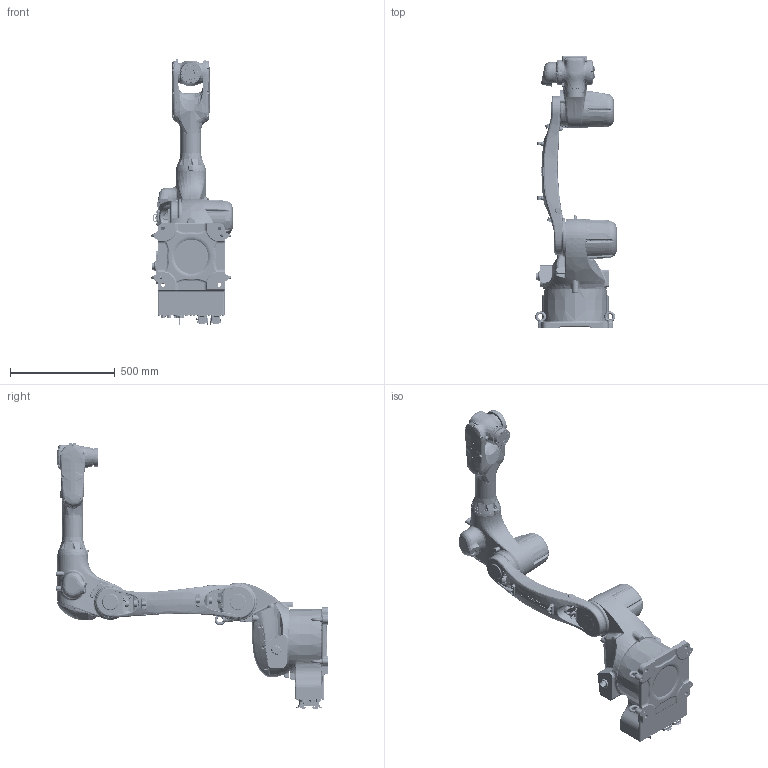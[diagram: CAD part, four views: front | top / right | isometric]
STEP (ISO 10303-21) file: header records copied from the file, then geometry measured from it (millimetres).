
FILE_DESCRIPTION (( 'STEP AP214' ), '1' );
FILE_NAME ('CRP-RA15-12-00（零位资姿态）.STEP', '2024-07-08T07:59:15', ( '' ), ( '' ), 'SwSTEP 2.0', 'SolidWorks 2021', '' );
FILE_SCHEMA (( 'AUTOMOTIVE_DESIGN' ));
Length unit declared in the file: millimetre
Products named in the file (8): CR15A0400 J4-00; CRP-RA15-12-00（零位资姿态）; CR15A0600 J6-00; CR15A0200 J2-00; CR15A0100 J1-00; CR15A0300 J3-00; 怀堤楊擘00; CR15A0500 J5-00
Assembly tree (7 placements, depth 2):
  CRP-RA15-12-00（零位资姿态）
    CR15A0100 J1-00
    CR15A0200 J2-00
    CR15A0300 J3-00
    CR15A0400 J4-00
    CR15A0500 J5-00
    CR15A0600 J6-00
    怀堤楊擘00
Bounding box: 389.99 x 1297 x 1271.08 mm (x, y, z)
Volume: 43928865.7 mm3; surface area: 2375690.4 mm2
Topology: 6 solids, 140 shells, 12943 faces, 32184 edges, 19888 vertices
Faces by surface type: plane 5250, cylinder 3265, bspline 3096, cone 819, torus 399, sphere 114
Entity records: 895011 total; most frequent: CARTESIAN_POINT 555787, ORIENTED_EDGE 63282, DIRECTION 52683, EDGE_CURVE 31650, VERTEX_POINT 19866, AXIS2_PLACEMENT_3D 19156, LINE 14371, VECTOR 14371
